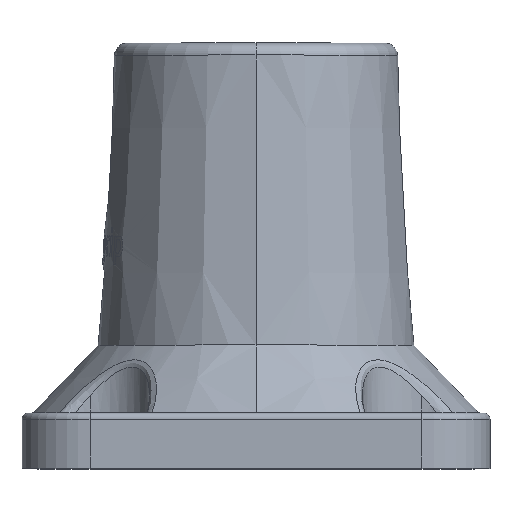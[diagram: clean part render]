
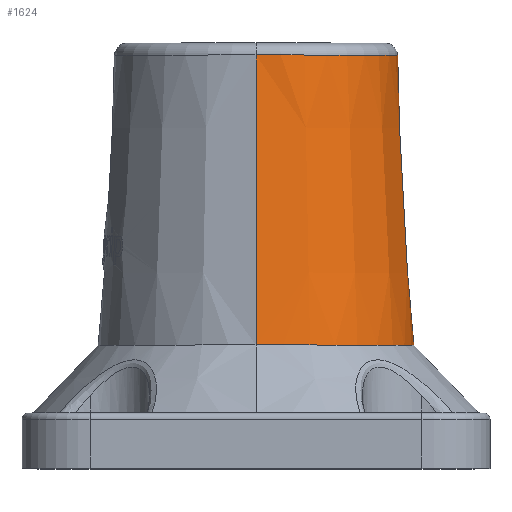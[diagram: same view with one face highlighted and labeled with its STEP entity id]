
A CAD part, top view. The second image highlights one B-rep face of the part: STEP entity #1624.
In plain terms, the highlighted conical face has half-angle 3.2 degrees and reference radius 37.12 mm.
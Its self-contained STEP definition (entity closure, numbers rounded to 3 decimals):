
#335 = AXIS2_PLACEMENT_3D ( 'NONE', #4125, #786, #5942 ) ;
#714 = ORIENTED_EDGE ( 'NONE', *, *, #3186, .F. ) ;
#786 = DIRECTION ( 'NONE',  ( 0., -1., 0. ) ) ;
#820 = CARTESIAN_POINT ( 'NONE',  ( 0., 29., 37.12 ) ) ;
#1215 = CARTESIAN_POINT ( 'NONE',  ( 0., 29., -37.12 ) ) ;
#1290 = VECTOR ( 'NONE', #3660, 1000. ) ;
#1457 = AXIS2_PLACEMENT_3D ( 'NONE', #2338, #3250, #4724 ) ;
#1624 = ADVANCED_FACE ( 'NONE', ( #4100 ), #3964, .T. ) ;
#2036 = EDGE_CURVE ( 'NONE', #5159, #5996, #2828, .T. ) ;
#2338 = CARTESIAN_POINT ( 'NONE',  ( 0., 29., 0. ) ) ;
#2353 = AXIS2_PLACEMENT_3D ( 'NONE', #3559, #6012, #4506 ) ;
#2395 = EDGE_CURVE ( 'NONE', #5397, #5808, #3688, .T. ) ;
#2477 = DIRECTION ( 'NONE',  ( 0., -0.998, 0.056 ) ) ;
#2828 = LINE ( 'NONE', #4186, #5591 ) ;
#3047 = CIRCLE ( 'NONE', #335, 33.308 ) ;
#3186 = EDGE_CURVE ( 'NONE', #5808, #5996, #3547, .T. ) ;
#3250 = DIRECTION ( 'NONE',  ( 0., -1., 0. ) ) ;
#3254 = CARTESIAN_POINT ( 'NONE',  ( 0., 97.167, -33.308 ) ) ;
#3541 = EDGE_LOOP ( 'NONE', ( #6033, #4741, #714, #3617 ) ) ;
#3547 = CIRCLE ( 'NONE', #1457, 37.12 ) ;
#3559 = CARTESIAN_POINT ( 'NONE',  ( 0., 29., 0. ) ) ;
#3617 = ORIENTED_EDGE ( 'NONE', *, *, #2395, .F. ) ;
#3660 = DIRECTION ( 'NONE',  ( 0., -0.998, -0.056 ) ) ;
#3688 = LINE ( 'NONE', #1215, #1290 ) ;
#3752 = EDGE_CURVE ( 'NONE', #5397, #5159, #3047, .T. ) ;
#3964 = CONICAL_SURFACE ( 'NONE', #2353, 37.12, 0.056 ) ;
#4100 = FACE_OUTER_BOUND ( 'NONE', #3541, .T. ) ;
#4125 = CARTESIAN_POINT ( 'NONE',  ( 0., 97.167, 0. ) ) ;
#4186 = CARTESIAN_POINT ( 'NONE',  ( 0., 29., 37.12 ) ) ;
#4506 = DIRECTION ( 'NONE',  ( 0., 0., -1. ) ) ;
#4698 = CARTESIAN_POINT ( 'NONE',  ( 0., 97.167, 33.308 ) ) ;
#4724 = DIRECTION ( 'NONE',  ( 0., 0., -1. ) ) ;
#4741 = ORIENTED_EDGE ( 'NONE', *, *, #2036, .T. ) ;
#5159 = VERTEX_POINT ( 'NONE', #4698 ) ;
#5203 = CARTESIAN_POINT ( 'NONE',  ( 0., 29., -37.12 ) ) ;
#5397 = VERTEX_POINT ( 'NONE', #3254 ) ;
#5591 = VECTOR ( 'NONE', #2477, 1000. ) ;
#5808 = VERTEX_POINT ( 'NONE', #5203 ) ;
#5942 = DIRECTION ( 'NONE',  ( 0., 0., 1. ) ) ;
#5996 = VERTEX_POINT ( 'NONE', #820 ) ;
#6012 = DIRECTION ( 'NONE',  ( 0., -1., 0. ) ) ;
#6033 = ORIENTED_EDGE ( 'NONE', *, *, #3752, .T. ) ;
